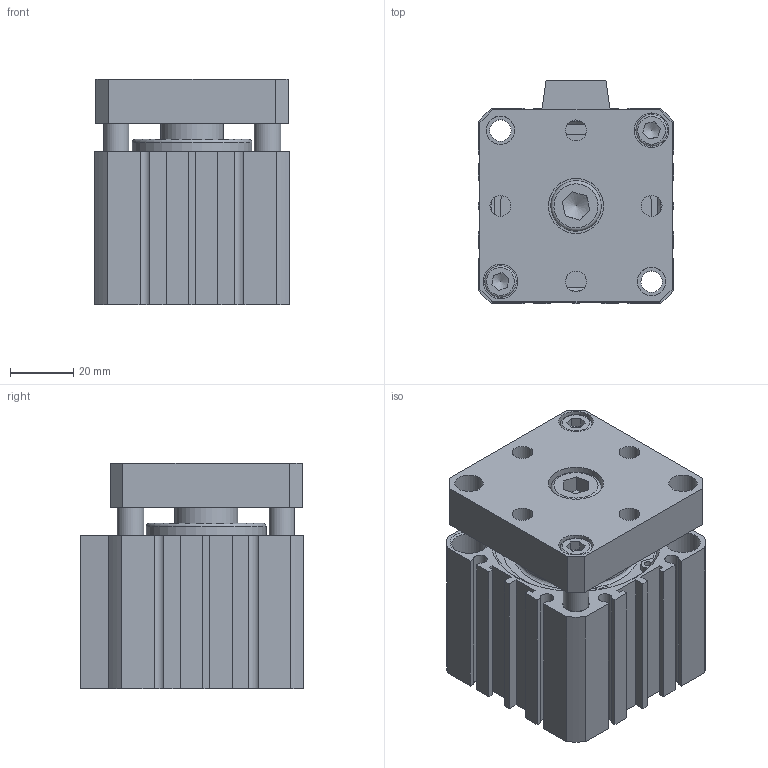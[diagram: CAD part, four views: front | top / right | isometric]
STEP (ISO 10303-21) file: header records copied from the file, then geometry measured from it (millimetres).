
FILE_DESCRIPTION((''),'2;1');
FILE_NAME('I:\3D電子目錄\氣缸\JTD\JTD\JTD50\JTD50x20.stp','2007-08-14T19:26:09',('Administrator'),(''),'Autodesk Inventor 11','Autodesk Inventor 11','');
FILE_SCHEMA(('AUTOMOTIVE_DESIGN { 1 0 10303 214 1 1 1 1 }'));
Length unit declared in the file: millimetre
Products named in the file (5): JTD50; R 形環 52; ISO 4762 M10 x 16; ISO 4762 M6 x 20
Assembly tree (6 placements, depth 2):
  JTD50
    JTD50
    R 形環 52  x2
    ISO 4762 M10 x 16
    ISO 4762 M6 x 20  x2
Bounding box: 62 x 71 x 71.6 mm (x, y, z)
Volume: 211130.5 mm3; surface area: 55924.5 mm2
Topology: 6 solids, 6 shells, 228 faces, 548 edges, 360 vertices
Faces by surface type: plane 135, cylinder 58, bspline 16, cone 14, torus 5
Full cylindrical faces by diameter (mm): 2.3 x4, 2.7 x2, 6 x2, 6.8 x2, 8 x2, 8.5 x3, 9 x2, 10 x3, 11 x4, 16 x1, 20 x1, 37 x1, 38 x1, 52 x4, 55 x2
Entity records: 5925 total; most frequent: CARTESIAN_POINT 1242, DIRECTION 938, ORIENTED_EDGE 844, EDGE_CURVE 422, AXIS2_PLACEMENT_3D 331, EDGE_LOOP 314, VERTEX_POINT 313, VECTOR 276
